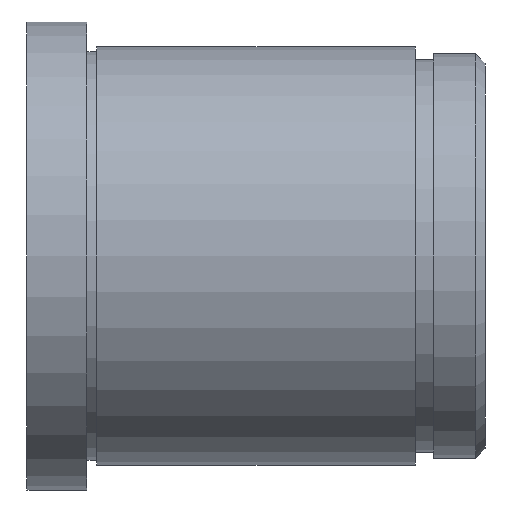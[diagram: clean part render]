
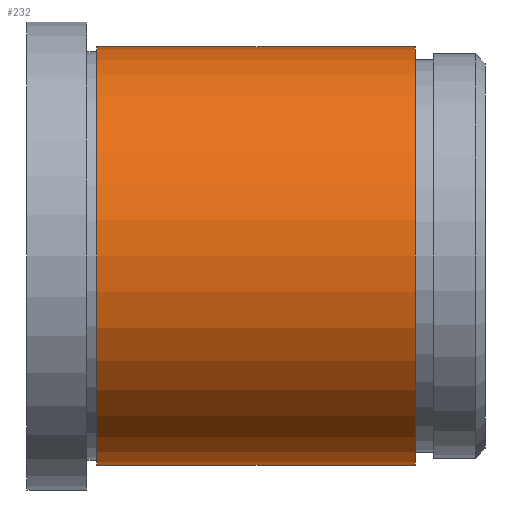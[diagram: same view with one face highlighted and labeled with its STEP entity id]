
A CAD part, front view. The second image highlights one B-rep face of the part: STEP entity #232.
In plain terms, the highlighted cylindrical face has radius 21 mm (diameter 42 mm), a full revolution.
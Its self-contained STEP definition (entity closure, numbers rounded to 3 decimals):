
#29=CYLINDRICAL_SURFACE('',#282,21.);
#42=FACE_OUTER_BOUND('',#61,.T.);
#61=EDGE_LOOP('',(#187,#188,#189,#190));
#74=LINE('',#417,#83);
#83=VECTOR('',#352,21.);
#100=CIRCLE('',#281,21.);
#101=CIRCLE('',#283,21.);
#118=VERTEX_POINT('',#412);
#119=VERTEX_POINT('',#415);
#142=EDGE_CURVE('',#118,#118,#100,.T.);
#143=EDGE_CURVE('',#119,#119,#101,.T.);
#144=EDGE_CURVE('',#119,#118,#74,.T.);
#187=ORIENTED_EDGE('',*,*,#143,.F.);
#188=ORIENTED_EDGE('',*,*,#144,.T.);
#189=ORIENTED_EDGE('',*,*,#142,.T.);
#190=ORIENTED_EDGE('',*,*,#144,.F.);
#232=ADVANCED_FACE('',(#42),#29,.T.);
#281=AXIS2_PLACEMENT_3D('',#413,#346,#347);
#282=AXIS2_PLACEMENT_3D('',#414,#348,#349);
#283=AXIS2_PLACEMENT_3D('',#416,#350,#351);
#346=DIRECTION('center_axis',(1.,0.,0.));
#347=DIRECTION('ref_axis',(0.,0.,-1.));
#348=DIRECTION('center_axis',(1.,0.,0.));
#349=DIRECTION('ref_axis',(0.,1.,0.));
#350=DIRECTION('center_axis',(1.,0.,0.));
#351=DIRECTION('ref_axis',(0.,0.,-1.));
#352=DIRECTION('',(-1.,0.,0.));
#412=CARTESIAN_POINT('',(7.,-21.,0.));
#413=CARTESIAN_POINT('Origin',(7.,0.,0.));
#414=CARTESIAN_POINT('Origin',(23.,0.,0.));
#415=CARTESIAN_POINT('',(39.,-21.,0.));
#416=CARTESIAN_POINT('Origin',(39.,0.,0.));
#417=CARTESIAN_POINT('',(23.,-21.,0.));
